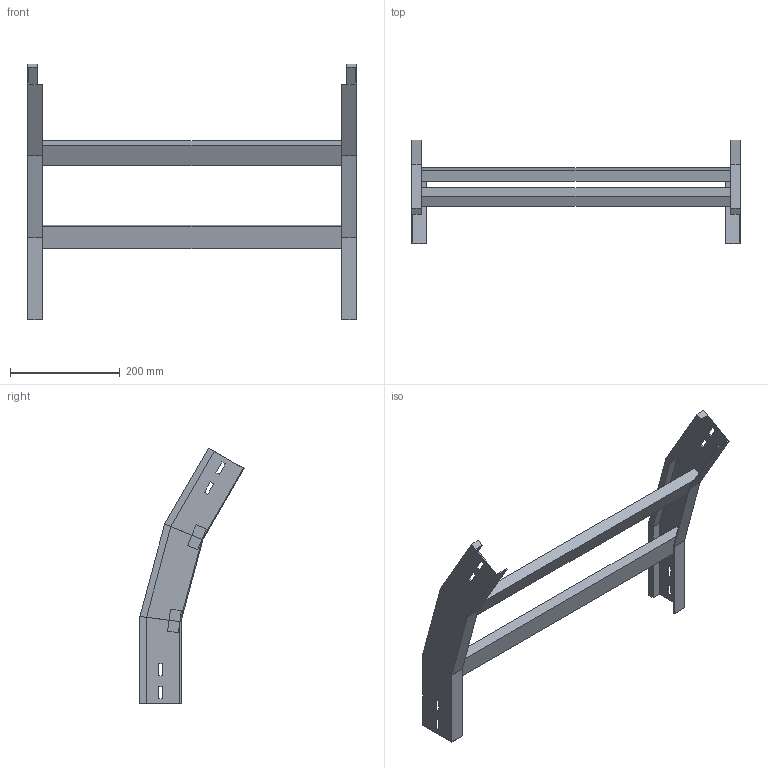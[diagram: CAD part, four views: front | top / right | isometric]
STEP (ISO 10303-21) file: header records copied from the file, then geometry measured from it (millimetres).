
FILE_DESCRIPTION (( 'STEP AP214' ), '1' );
FILE_NAME ('A2_35B3C600.step', '2025-02-21T14:50:01', ( '' ), ( '' ), 'SwSTEP 2.0', 'SolidWorks 2023', '' );
FILE_SCHEMA (( 'AUTOMOTIVE_DESIGN' ));
Length unit declared in the file: millimetre
Products named in the file (3): LONGH.DISCESA_30°_H75_R300; A2_35B3C600; TRAVERSINO_600
Assembly tree (5 placements, depth 2):
  A2_35B3C600
    LONGH.DISCESA_30°_H75_R300  x2
    TRAVERSINO_600  x3
Bounding box: 600 x 190.12 x 467.12 mm (x, y, z)
Volume: 1822466.1 mm3; surface area: 444460.5 mm2
Topology: 5 solids, 5 shells, 102 faces, 244 edges, 152 vertices
Faces by surface type: plane 102
Entity records: 1480 total; most frequent: CARTESIAN_POINT 244, ORIENTED_EDGE 232, DIRECTION 228, VECTOR 116, EDGE_CURVE 116, LINE 116, VERTEX_POINT 72, EDGE_LOOP 56
